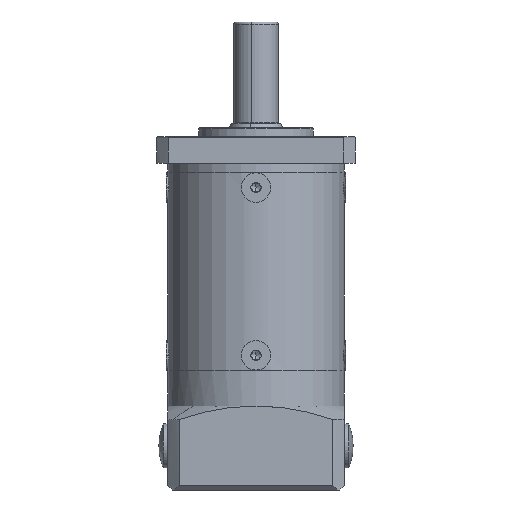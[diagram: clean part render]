
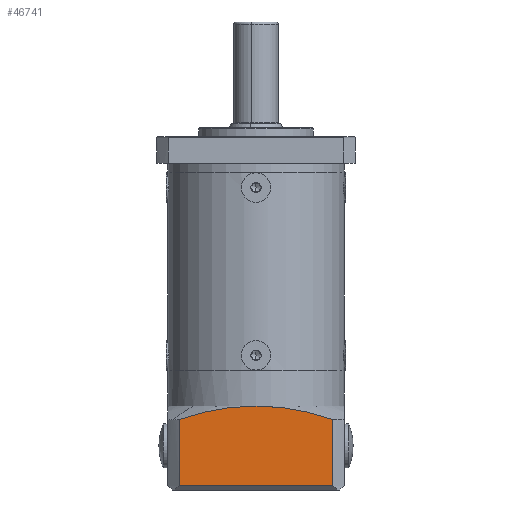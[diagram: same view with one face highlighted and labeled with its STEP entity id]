
A CAD part, front view. The second image highlights one B-rep face of the part: STEP entity #46741.
In plain terms, the highlighted planar face has unit normal (0, -1, 0).
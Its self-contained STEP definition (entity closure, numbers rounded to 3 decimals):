
#492 = VECTOR ( 'NONE', #16492, 1000. ) ;
#532 = CARTESIAN_POINT ( 'NONE',  ( -4.81, -6.138, -14.75 ) ) ;
#1445 = AXIS2_PLACEMENT_3D ( 'NONE', #3276, #14125, #29561 ) ;
#2615 = VERTEX_POINT ( 'NONE', #29049 ) ;
#2689 = VERTEX_POINT ( 'NONE', #36385 ) ;
#2804 = VECTOR ( 'NONE', #7464, 1000. ) ;
#2990 = EDGE_CURVE ( 'NONE', #2615, #41335, #24062, .T. ) ;
#3276 = CARTESIAN_POINT ( 'NONE',  ( 15.19, -6.138, -33.75 ) ) ;
#5643 = CARTESIAN_POINT ( 'NONE',  ( 12.575, -6.138, -32.75 ) ) ;
#6437 = CARTESIAN_POINT ( 'NONE',  ( -22.195, -6.138, -17.79 ) ) ;
#7464 = DIRECTION ( 'NONE',  ( 0., 0., -1. ) ) ;
#9361 = ORIENTED_EDGE ( 'NONE', *, *, #34345, .T. ) ;
#9710 = VERTEX_POINT ( 'NONE', #532 ) ;
#9859 = AXIS2_PLACEMENT_3D ( 'NONE', #32284, #20965, #35728 ) ;
#9978 = DIRECTION ( 'NONE',  ( 0., -1., 0. ) ) ;
#11277 = CARTESIAN_POINT ( 'NONE',  ( 15.19, -6.138, -32.75 ) ) ;
#11438 = ORIENTED_EDGE ( 'NONE', *, *, #12202, .F. ) ;
#12202 = EDGE_CURVE ( 'NONE', #2689, #30419, #23355, .T. ) ;
#14125 = DIRECTION ( 'NONE',  ( 0., 1., 0. ) ) ;
#14902 = DIRECTION ( 'NONE',  ( 1., 0., 0. ) ) ;
#16492 = DIRECTION ( 'NONE',  ( 0., 0., 1. ) ) ;
#20965 = DIRECTION ( 'NONE',  ( 0., -1., 0. ) ) ;
#22096 = CARTESIAN_POINT ( 'NONE',  ( 12.575, -6.138, -109.453 ) ) ;
#23355 = LINE ( 'NONE', #22096, #2804 ) ;
#23580 = CARTESIAN_POINT ( 'NONE',  ( -22.195, -6.138, -109.453 ) ) ;
#24062 = LINE ( 'NONE', #23580, #492 ) ;
#27757 = EDGE_LOOP ( 'NONE', ( #11438, #9361, #35636, #32801, #38356 ) ) ;
#28882 = DIRECTION ( 'NONE',  ( 0., 0., -1. ) ) ;
#29049 = CARTESIAN_POINT ( 'NONE',  ( -22.195, -6.138, -32.75 ) ) ;
#29561 = DIRECTION ( 'NONE',  ( 0., 0., -1. ) ) ;
#29919 = EDGE_CURVE ( 'NONE', #9710, #41335, #47422, .T. ) ;
#30419 = VERTEX_POINT ( 'NONE', #5643 ) ;
#31988 = LINE ( 'NONE', #11277, #46097 ) ;
#32284 = CARTESIAN_POINT ( 'NONE',  ( -4.81, -6.138, -65.985 ) ) ;
#32620 = CARTESIAN_POINT ( 'NONE',  ( -4.81, -6.138, -65.985 ) ) ;
#32801 = ORIENTED_EDGE ( 'NONE', *, *, #2990, .F. ) ;
#33325 = PLANE ( 'NONE',  #1445 ) ;
#34345 = EDGE_CURVE ( 'NONE', #2689, #9710, #42661, .T. ) ;
#35636 = ORIENTED_EDGE ( 'NONE', *, *, #29919, .T. ) ;
#35728 = DIRECTION ( 'NONE',  ( 0., 0., -1. ) ) ;
#36183 = EDGE_CURVE ( 'NONE', #2615, #30419, #31988, .T. ) ;
#36385 = CARTESIAN_POINT ( 'NONE',  ( 12.575, -6.138, -17.79 ) ) ;
#38356 = ORIENTED_EDGE ( 'NONE', *, *, #36183, .T. ) ;
#39601 = AXIS2_PLACEMENT_3D ( 'NONE', #32620, #9978, #28882 ) ;
#41335 = VERTEX_POINT ( 'NONE', #6437 ) ;
#42661 = CIRCLE ( 'NONE', #9859, 51.235 ) ;
#46097 = VECTOR ( 'NONE', #14902, 1000. ) ;
#46741 = ADVANCED_FACE ( 'NONE', ( #48321 ), #33325, .F. ) ;
#47422 = CIRCLE ( 'NONE', #39601, 51.235 ) ;
#48321 = FACE_OUTER_BOUND ( 'NONE', #27757, .T. ) ;
